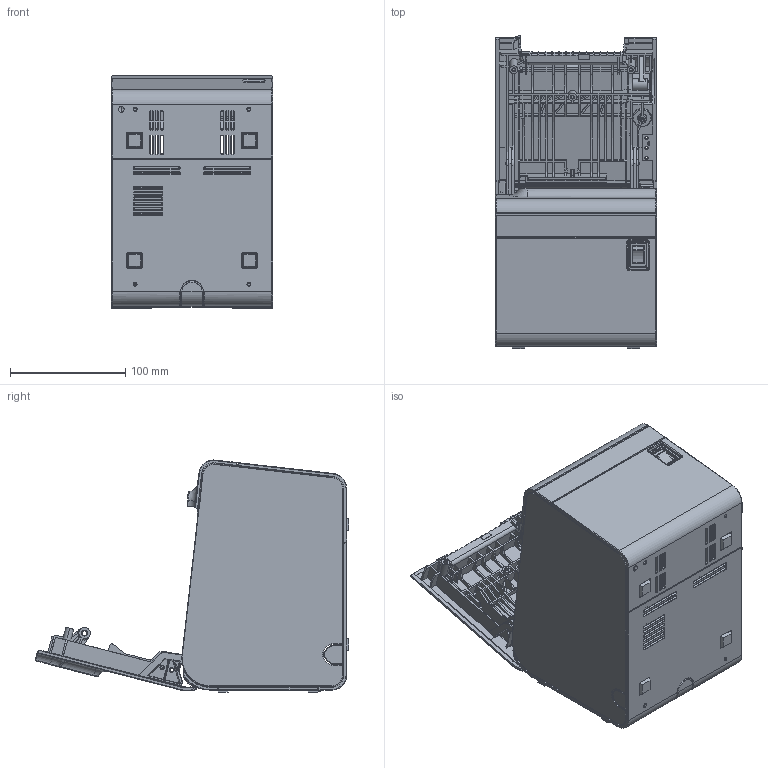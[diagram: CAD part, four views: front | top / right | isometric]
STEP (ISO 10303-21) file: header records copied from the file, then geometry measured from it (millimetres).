
FILE_DESCRIPTION((''),'2;1');
FILE_NAME('TM-L90_OPEN_SW','2025-01-23T10:48:46',('0092109'),(''),'CREO PARAMETRIC BY PTC INC, 2022281','CREO PARAMETRIC BY PTC INC, 2022281','');
FILE_SCHEMA(('AUTOMOTIVE_DESIGN { 1 0 10303 214 1 1 1 1 }'));
Products named in the file (1): TM-L90_OPEN_SW
Bounding box: 140.23 x 272.37 x 201.68 mm (x, y, z)
Surface area: 428628 mm2 (no closed solid volume)
Topology: 0 solids, 24 shells, 4014 faces, 11427 edges, 7318 vertices
Faces by surface type: plane 2220, cylinder 1263, bspline 275, torus 144, cone 68, sphere 44
Entity records: 145695 total; most frequent: CARTESIAN_POINT 44138, ORIENTED_EDGE 21659, DIRECTION 19666, EDGE_CURVE 11414, VECTOR 7736, LINE 7736, VERTEX_POINT 7318, AXIS2_PLACEMENT_3D 5965
